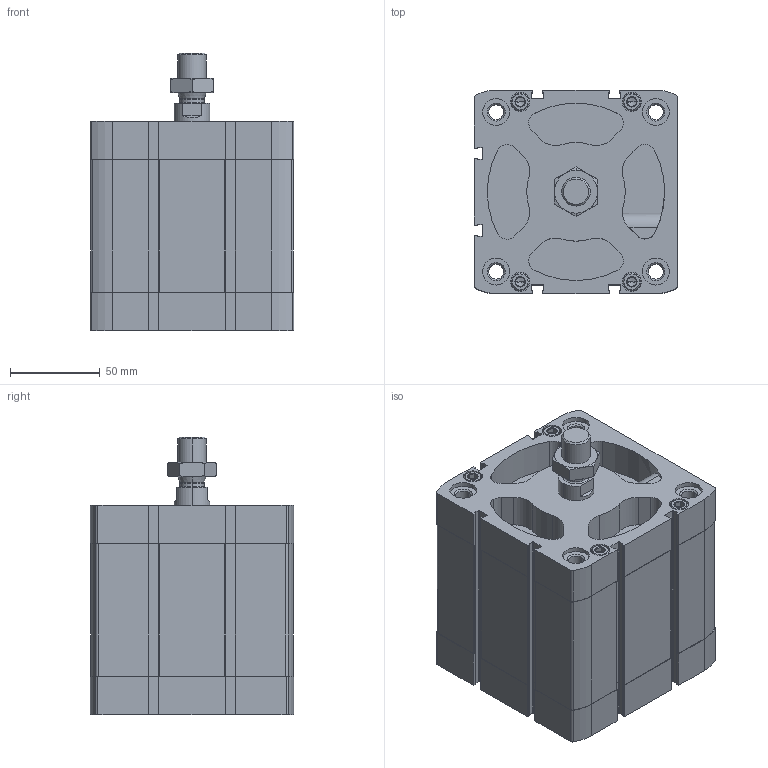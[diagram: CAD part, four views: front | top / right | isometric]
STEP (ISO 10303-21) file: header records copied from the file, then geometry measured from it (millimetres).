
FILE_DESCRIPTION (( 'STEP AP203' ), '1' );
FILE_NAME ('CCN100-50M.STEP', '2020-06-05T18:07:27', ( '' ), ( '' ), 'SwSTEP 2.0', 'SolidWorks 2019', '' );
FILE_SCHEMA (( 'CONFIG_CONTROL_DESIGN' ));
Length unit declared in the file: millimetre
Products named in the file (1): CCN100-50M
Bounding box: 113.5 x 113.5 x 154.8 mm (x, y, z)
Volume: 928870.5 mm3; surface area: 193482.5 mm2
Topology: 3 solids, 3 shells, 648 faces, 1673 edges, 1068 vertices
Faces by surface type: plane 292, cylinder 272, cone 80, torus 4
Entity records: 21246 total; most frequent: CARTESIAN_POINT 4984, DIRECTION 3541, ORIENTED_EDGE 3314, EDGE_CURVE 1657, AXIS2_PLACEMENT_3D 1319, VERTEX_POINT 1068, LINE 903, VECTOR 903
